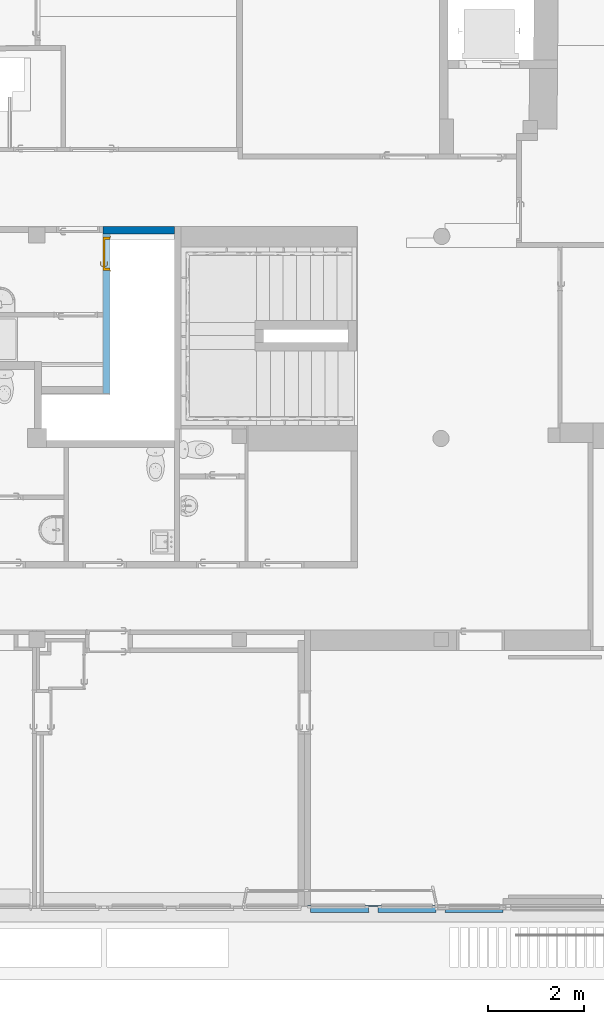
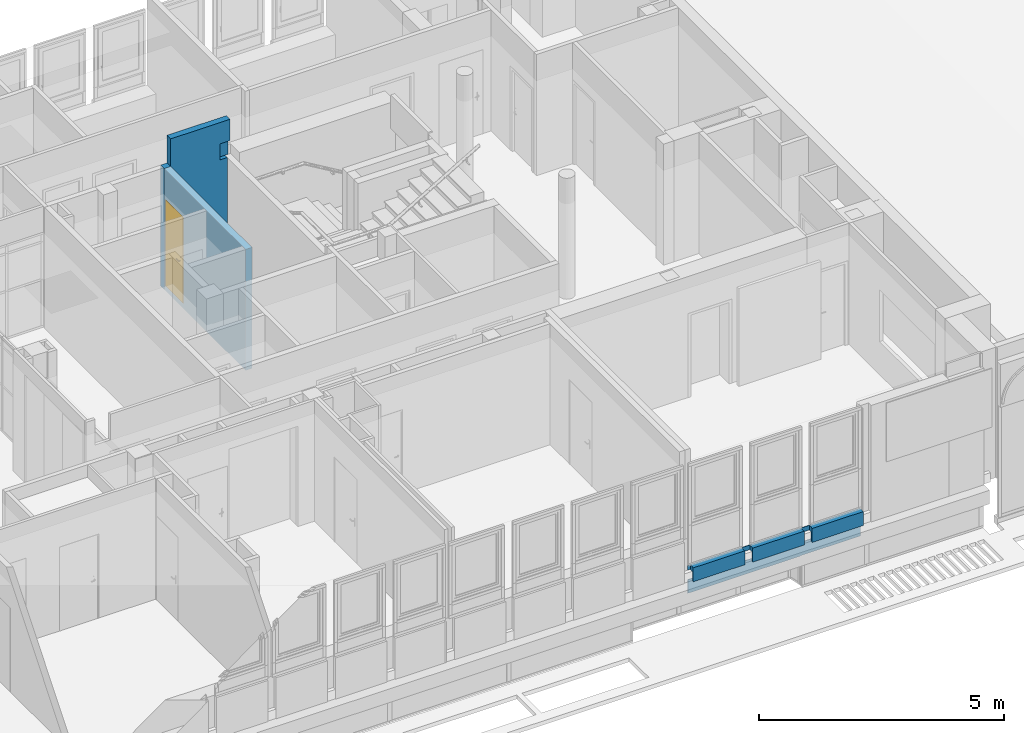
# One storey, part 76 of 97: 2 walls, 1 door, 2 openings, plus 1 element that does not belong to this part.
"""IFC4 building model written with IfcOpenShell, lengths in metres."""

from ifc_helpers import new_model, entity, si_unit, converted_unit, derived_unit, direction, frame, origin, place, context, subcontext, project, spatial, indexed_curve, outline, extrude, polygons, source, transform, mapped, material, material_list, layer, layer_set, constituent, constituent_set, type_object, type_shapes, element, fill, save


model = new_model("IFC4")

# Units and contexts
model_context = context("Model", 3, precision=1e-05, world=origin(), true_north=direction((6.12303176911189e-17, 1.0)))
body_context = subcontext(model_context, "Body", "Model", "MODEL_VIEW")
ifc_project = project(units=[si_unit("LENGTHUNIT", "METRE"), si_unit("AREAUNIT", "SQUARE_METRE"), si_unit("VOLUMEUNIT", "CUBIC_METRE"), converted_unit("PLANEANGLEUNIT", "DEGREE", entity("IfcRatioMeasure", 0.0174532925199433), si_unit("PLANEANGLEUNIT", "RADIAN"), dimensions=[0, 0, 0, 0, 0, 0, 0]), si_unit("MASSUNIT", "GRAM", prefix="KILO"), derived_unit("MASSDENSITYUNIT", [(si_unit("MASSUNIT", "GRAM", prefix="KILO"), 1), (si_unit("LENGTHUNIT", "METRE"), -3)]), derived_unit("MOMENTOFINERTIAUNIT", [(si_unit("LENGTHUNIT", "METRE"), 4)]), si_unit("TIMEUNIT", "SECOND"), si_unit("FREQUENCYUNIT", "HERTZ"), si_unit("THERMODYNAMICTEMPERATUREUNIT", "DEGREE_CELSIUS"), derived_unit("THERMALTRANSMITTANCEUNIT", [(si_unit("MASSUNIT", "GRAM", prefix="KILO"), 1), (si_unit("THERMODYNAMICTEMPERATUREUNIT", "KELVIN"), -1), (si_unit("TIMEUNIT", "SECOND"), -3)]), derived_unit("VOLUMETRICFLOWRATEUNIT", [(si_unit("LENGTHUNIT", "METRE"), 3), (si_unit("TIMEUNIT", "SECOND"), -1)]), si_unit("ELECTRICCURRENTUNIT", "AMPERE"), si_unit("ELECTRICVOLTAGEUNIT", "VOLT"), si_unit("POWERUNIT", "WATT"), si_unit("FORCEUNIT", "NEWTON", prefix="KILO"), si_unit("ILLUMINANCEUNIT", "LUX"), si_unit("LUMINOUSFLUXUNIT", "LUMEN"), si_unit("LUMINOUSINTENSITYUNIT", "CANDELA"), derived_unit("USERDEFINED", [(si_unit("MASSUNIT", "GRAM", prefix="KILO"), -1), (si_unit("LENGTHUNIT", "METRE"), -2), (si_unit("TIMEUNIT", "SECOND"), 3), (si_unit("LUMINOUSFLUXUNIT", "LUMEN"), 1)]), derived_unit("LINEARVELOCITYUNIT", [(si_unit("LENGTHUNIT", "METRE"), 1), (si_unit("TIMEUNIT", "SECOND"), -1)]), si_unit("PRESSUREUNIT", "PASCAL"), derived_unit("USERDEFINED", [(si_unit("LENGTHUNIT", "METRE"), -2), (si_unit("MASSUNIT", "GRAM", prefix="KILO"), 1), (si_unit("TIMEUNIT", "SECOND"), -2)]), derived_unit("LINEARFORCEUNIT", [(si_unit("MASSUNIT", "GRAM", prefix="KILO"), 1), (si_unit("LENGTHUNIT", "METRE"), 1), (si_unit("TIMEUNIT", "SECOND"), -2), (si_unit("LENGTHUNIT", "METRE"), -1)]), derived_unit("PLANARFORCEUNIT", [(si_unit("MASSUNIT", "GRAM", prefix="KILO"), 1), (si_unit("LENGTHUNIT", "METRE"), 1), (si_unit("TIMEUNIT", "SECOND"), -2), (si_unit("LENGTHUNIT", "METRE"), -2)])], contexts=[model_context])

# Site, building, storey
site_placement = place(None, origin())
site = spatial("IfcSite", under=ifc_project, at=site_placement, Name="Default", CompositionType="ELEMENT")
building_placement = place(site_placement, origin())
building = spatial("IfcBuilding", under=site, at=building_placement, Name="HOTEL CONSULAIRE BOULOGNE SUR MER", CompositionType="ELEMENT")
storey_placement = place(building_placement, frame((0.0, 0.0, 3.62152697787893)))
storey = spatial("IfcBuildingStorey", under=building, at=storey_placement, Name="Niveau 1", CompositionType="ELEMENT", Elevation=3.62152697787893)

# Wall, opening
ifc_material_1 = material(Name="Mur par défaut", Category="Divers")
ifc_layer_1 = layer(ifc_material_1, 0.15, Name="Mur par défaut", Category="Divers")
ifc_layer_set_1 = layer_set([ifc_layer_1], Name="Mur de base:Générique - Int. 150 mm")
wall_type_1 = type_object("IfcWallType", Name="Mur de base:Générique - Int. 150 mm", PredefinedType="NOTDEFINED", material=ifc_layer_set_1)
wall_1_placement = place(storey_placement, frame((1.69247131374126, -15.5102420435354, 0.0), z_axis=(0.0, 0.0, 1.0), x_axis=(-1.0, 0.0, 0.0)))
wall_1 = element("IfcWall", 1, at=wall_1_placement, inside=storey, type_object=wall_type_1, material=ifc_layer_set_1, Name="Mur de base:Générique - Int. 150 mm", ObjectType="Mur de base:Générique - Int. 150 mm", PredefinedType="NOTDEFINED", context=body_context, shape_type="Tessellation", body=[
    polygons([(0.0650000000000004, -0.0750000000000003, -5.41433564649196e-16), (1.55083625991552, -0.0750000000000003, -5.41433564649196e-16), (1.55083625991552, -0.0750000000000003, 3.01021454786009), (1.40083625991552, -0.0750000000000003, 3.01021454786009), (1.40083625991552, -0.0750000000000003, 3.69821454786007), (6.24087040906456e-17, -0.0750000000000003, 3.69821454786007), (6.24087040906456e-17, -0.0750000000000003, 3.01021454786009), (6.24087040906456e-17, -0.0750000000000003, 2.76821454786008), (0.0650000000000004, -0.0750000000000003, 2.76821454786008), (1.55083625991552, 0.0750000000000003, -5.41433564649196e-16), (1.40083625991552, 0.0750000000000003, -5.41433564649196e-16), (0.065, 0.0750000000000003, -5.41433564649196e-16), (0.065, 0.0750000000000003, 2.76821454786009), (0.235, 0.0750000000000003, 2.76821454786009), (0.235, 0.0750000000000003, 3.16821454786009), (1.49314948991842e-16, 0.0750000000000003, 3.16821454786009), (1.49314948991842e-16, 0.0750000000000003, 3.69821454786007), (1.40083625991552, 0.0750000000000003, 3.69821454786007), (1.40083625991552, 0.0750000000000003, 3.01021454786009), (1.55083625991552, 0.0750000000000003, 3.01021454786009), (1.55083625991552, 0.0449999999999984, -5.41433564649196e-16), (1.55083625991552, 0.0449999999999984, 3.01021454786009), (0.235, -0.017363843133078, 3.16821454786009), (0.235, -0.017363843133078, 2.76821454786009), (0.0650000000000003, -0.017363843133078, 2.76821454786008), (1.58477433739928e-16, -0.017363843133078, 2.76821454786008), (1.58477433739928e-16, -0.017363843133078, 3.01021454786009), (1.58477433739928e-16, -0.017363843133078, 3.16821454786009)], [[[7, 8, 9, 1, 2, 3, 4, 5, 6]], [[10, 11, 12, 13, 14, 15, 16, 17, 18, 19, 20]], [[27, 28, 23, 24, 25, 26]], [[6, 5, 18, 17]], [[13, 25, 24, 14]], [[22, 20, 19, 4, 3]], [[3, 2, 21, 10, 20, 22]], [[5, 4, 19, 18]], [[1, 12, 11, 10, 21, 2]], [[26, 25, 9, 8]], [[15, 23, 28, 16]], [[14, 24, 23, 15]], [[26, 8, 7, 6, 17, 16, 28, 27]], [[25, 13, 12, 1, 9]]], closed=True),
])
opening_1_placement = place(storey_placement, frame((1.69247131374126, -15.5102420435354, 0.0), z_axis=(0.0, 0.0, 1.0), x_axis=(-1.0, 0.0, 0.0)))
element("IfcOpeningElement", 2, at=opening_1_placement, cuts=wall_1, Name="Mur de base:Générique - Int. 150 mm:1", ObjectType="Opening", PredefinedType="OPENING", context=body_context, shape_type="SweptSolid", body=[
    extrude(outline(indexed_curve([(-0.0461819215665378, -0.085), (0.0461819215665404, -0.085), (0.04618192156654, 0.085), (-0.0461819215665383, 0.0849999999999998), (-0.0461819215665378, -0.085)], self_intersect=False)), frame((0.15, 0.0288180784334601, 2.76821454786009), z_axis=(0.0, 0.0, 1.0), x_axis=(0.0, 1.0, 0.0)), (0.0, 0.0, 1.0), 0.4),
])

# Wall, opening, door
wall_2_placement = place(storey_placement, frame((0.216635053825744, -18.9046212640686, 0.0), z_axis=(0.0, 0.0, 1.0), x_axis=(0.0, 1.0, 0.0)))
wall_2 = element("IfcWall", 3, at=wall_2_placement, inside=storey, type_object=wall_type_1, material=ifc_layer_set_1, Name="Mur de base:Générique - Int. 150 mm", ObjectType="Mur de base:Générique - Int. 150 mm", PredefinedType="NOTDEFINED", context=body_context, shape_type="Tessellation", body=[
    polygons([(3.31937922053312, -0.075, 3.01021454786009), (0.0, -0.075, 3.01021454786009), (0.0, -0.075, 0.0), (3.2043792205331, -0.075, 0.0), (3.31937922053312, -0.075, 0.0), (3.2533792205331, -0.075, 2.26500000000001), (3.2533792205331, -0.075, 0.13), (2.5533792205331, -0.075, 0.13), (2.5533792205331, -0.075, 2.26500000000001), (0.0, 0.075, 3.01021454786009), (0.150000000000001, 0.075, 3.01021454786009), (1.58683564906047, 0.075, 3.01021454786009), (1.68683564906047, 0.075, 3.01021454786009), (3.31937922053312, 0.075, 3.01021454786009), (3.31937922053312, 0.075, 0.0), (1.68683564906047, 0.075, 0.0), (1.58683564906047, 0.075, 0.0), (0.150000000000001, 0.075, 0.0), (0.0, 0.075, 0.0), (3.2533792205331, 0.075, 0.13), (3.2533792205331, 0.075, 2.26500000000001), (2.5533792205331, 0.075, 2.26500000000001), (2.5533792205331, 0.075, 0.13)], [[[3, 4, 5, 1, 2], [9, 6, 7, 8]], [[15, 16, 17, 18, 19, 10, 11, 12, 13, 14], [20, 21, 22, 23]], [[2, 1, 14, 13, 12, 11, 10]], [[20, 23, 8, 7]], [[10, 19, 3, 2]], [[21, 20, 7, 6]], [[22, 21, 6, 9]], [[18, 17, 16, 15, 5, 4, 3, 19]], [[23, 22, 9, 8]], [[5, 15, 14, 1]]], closed=True),
])
opening_2_placement = place(wall_2_placement, frame((2.5533792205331, -0.0749999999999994, 0.130000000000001)))
opening_2 = element("IfcOpeningElement", 4, at=opening_2_placement, cuts=wall_2, Name="Int. Simple:PP (0.63m x 2.10m):1", ObjectType="Opening", PredefinedType="OPENING", context=body_context, shape_type="SweptSolid", body=[
    extrude(outline(indexed_curve([(0.0, 0.699999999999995), (0.0, 0.0), (2.13500000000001, 0.0), (2.13500000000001, 0.699999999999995), (0.0, 0.699999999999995)], self_intersect=False)), frame((0.0, 0.0, 0.0), z_axis=(0.0, 1.0, 0.0), x_axis=(0.0, 0.0, 1.0)), (0.0, 0.0, 1.0), 0.15),
])
ifc_material_2 = material(Name="Finition Peinture - Blanc satiné", Category="Peinture")
ifc_constituent_1 = constituent(ifc_material_2, Name="Finition Peinture - Blanc satiné", Category="Matériaux")
ifc_material_3 = material(Name="Bois - Panneau de porte", Category="Bois")
ifc_constituent_2 = constituent(ifc_material_3, Name="Bois - Panneau de porte", Category="Matériaux")
ifc_material_4 = material(Name="Bois - Cadre de porte", Category="Bois")
ifc_constituent_3 = constituent(ifc_material_4, Name="Bois - Cadre de porte", Category="Matériaux")
ifc_constituent_set = constituent_set(constituents=[ifc_constituent_1, ifc_constituent_2, ifc_constituent_3], Name="MaterialConstituentSet")
ifc_material_list = material_list([ifc_material_3, ifc_material_2, ifc_material_4, ifc_material_4])
door_type = type_object("IfcDoorType", Name="Int. Simple:PP (0.63m x 2.10m)", OperationType="NOTDEFINED", PredefinedType="DOOR", material=ifc_material_list)
shared_shape = source(origin(), body_context, "Body", "Tessellation", [
    polygons([(0.695000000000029, -0.00500000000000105, 0.870000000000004), (0.695000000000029, -0.00500000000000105, 1.08), (0.68535276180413, -0.00500000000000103, 1.08399601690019), (0.675000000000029, -0.00500000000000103, 1.08535898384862), (0.664647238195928, -0.00500000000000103, 1.08399601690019), (0.65500000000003, -0.00500000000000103, 1.08), (0.655000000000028, -0.00500000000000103, 0.870000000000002), (0.664647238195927, -0.00500000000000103, 0.866003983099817), (0.675000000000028, -0.00500000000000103, 0.86464101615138), (0.685352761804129, -0.00500000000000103, 0.866003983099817), (0.695000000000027, -1.04902753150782e-15, 0.870000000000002), (0.685352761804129, -1.04902753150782e-15, 0.866003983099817), (0.675000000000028, -1.04056763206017e-15, 0.86464101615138), (0.664647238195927, -1.04056763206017e-15, 0.866003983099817), (0.655000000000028, -1.03210773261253e-15, 0.870000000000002), (0.655000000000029, -1.03210773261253e-15, 1.08), (0.664647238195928, -1.04056763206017e-15, 1.08399601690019), (0.675000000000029, -1.04056763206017e-15, 1.08535898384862), (0.68535276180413, -1.04902753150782e-15, 1.08399601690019), (0.695000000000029, -1.04902753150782e-15, 1.08)], [[[1, 2, 3, 4, 5, 6, 7, 8, 9, 10]], [[20, 11, 12, 13, 14, 15, 16, 17, 18, 19]], [[10, 12, 11, 1]], [[9, 13, 12, 10]], [[8, 14, 13, 9]], [[8, 7, 15, 14]], [[15, 7, 6, 16]], [[5, 17, 16, 6]], [[4, 18, 17, 5]], [[3, 19, 18, 4]], [[3, 2, 20, 19]], [[11, 20, 2, 1]]], closed=True),
    polygons([(0.65500000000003, 0.0399999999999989, 1.08), (0.655000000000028, 0.0399999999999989, 0.870000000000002), (0.664647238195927, 0.0399999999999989, 0.866003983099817), (0.675000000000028, 0.0399999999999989, 0.86464101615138), (0.685352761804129, 0.0399999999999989, 0.866003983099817), (0.695000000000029, 0.0399999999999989, 0.870000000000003), (0.695000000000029, 0.0399999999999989, 1.08), (0.68535276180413, 0.0399999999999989, 1.08399601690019), (0.675000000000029, 0.0399999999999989, 1.08535898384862), (0.664647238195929, 0.0399999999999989, 1.08399601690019), (0.65500000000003, 0.044999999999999, 1.08), (0.664647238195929, 0.0449999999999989, 1.08399601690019), (0.675000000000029, 0.0449999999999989, 1.08535898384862), (0.68535276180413, 0.0449999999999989, 1.08399601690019), (0.695000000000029, 0.0449999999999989, 1.08), (0.695000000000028, 0.0449999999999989, 0.870000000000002), (0.685352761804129, 0.0449999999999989, 0.866003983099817), (0.675000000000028, 0.0449999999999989, 0.86464101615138), (0.664647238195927, 0.0449999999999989, 0.866003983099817), (0.655000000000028, 0.044999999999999, 0.870000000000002)], [[[6, 7, 8, 9, 10, 1, 2, 3, 4, 5]], [[13, 14, 15, 16, 17, 18, 19, 20, 11, 12]], [[10, 12, 11, 1]], [[9, 13, 12, 10]], [[8, 14, 13, 9]], [[8, 7, 15, 14]], [[16, 15, 7, 6]], [[5, 17, 16, 6]], [[4, 18, 17, 5]], [[3, 19, 18, 4]], [[3, 2, 20, 19]], [[20, 2, 1, 11]]], closed=True),
    polygons([(0.681000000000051, -0.00500000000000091, 1.00699999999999), (0.68100000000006, -0.00500000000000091, 0.992999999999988), (0.677025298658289, -0.00500000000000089, 0.99221955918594), (0.67297470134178, -0.00500000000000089, 0.992219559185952), (0.669000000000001, -0.00500000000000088, 0.993000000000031), (0.669000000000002, -0.00500000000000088, 1.007), (0.672974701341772, -0.00500000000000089, 1.00778044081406), (0.677025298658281, -0.00500000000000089, 1.00778044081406), (0.669000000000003, -0.0276803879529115, 1.007), (0.672974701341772, -0.0293267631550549, 1.00778044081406), (0.677025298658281, -0.0310045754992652, 1.00778044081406), (0.681000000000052, -0.0326509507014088, 1.007), (0.669000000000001, -0.0276803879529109, 0.993000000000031), (0.68100000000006, -0.0326509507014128, 0.992999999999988), (0.677025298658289, -0.0310045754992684, 0.99221955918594), (0.67297470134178, -0.0293267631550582, 0.992219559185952), (0.657652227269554, -0.0390281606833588, 1.007), (0.659298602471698, -0.0430028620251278, 1.00778044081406), (0.660976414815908, -0.0470534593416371, 1.00778044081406), (0.662622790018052, -0.051028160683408, 1.007), (0.657652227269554, -0.0390281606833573, 0.993000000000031), (0.662622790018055, -0.0510281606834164, 0.992999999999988), (0.660976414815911, -0.0470534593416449, 0.99221955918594), (0.659298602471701, -0.0430028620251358, 0.992219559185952), (0.574981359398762, -0.0510281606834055, 1.007), (0.574981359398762, -0.0470534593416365, 1.00778044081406), (0.574981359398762, -0.0430028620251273, 1.00778044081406), (0.574981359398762, -0.0390281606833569, 1.00699999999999), (0.574981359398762, -0.0390281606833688, 0.993000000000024), (0.574981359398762, -0.0430028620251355, 0.992219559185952), (0.574981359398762, -0.0470534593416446, 0.99221955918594), (0.574981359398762, -0.0510281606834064, 0.992999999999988), (0.622692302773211, -0.051028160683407, 1.007), (0.617139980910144, -0.045028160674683, 1.0078786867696), (0.616316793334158, -0.0390281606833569, 1.007), (0.622692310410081, -0.0510281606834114, 0.992999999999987), (0.617139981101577, -0.0450281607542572, 0.992121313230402), (0.61631679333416, -0.0390281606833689, 0.993000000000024)], [[[7, 8, 1, 2, 3, 4, 5, 6]], [[17, 21, 38, 29, 28, 35]], [[1, 8, 11, 12]], [[8, 7, 10, 18, 19, 11]], [[7, 6, 9, 10]], [[13, 9, 6, 5]], [[25, 26, 27, 28, 29, 30, 31, 32]], [[4, 16, 13, 5]], [[4, 3, 15, 23, 24, 16]], [[2, 14, 15, 3]], [[12, 14, 2, 1]], [[12, 11, 19, 20]], [[10, 9, 17, 18]], [[21, 17, 9, 13]], [[13, 16, 24, 21]], [[15, 14, 22, 23]], [[20, 22, 14, 12]], [[34, 26, 33]], [[33, 26, 25]], [[33, 20, 19]], [[18, 35, 34]], [[35, 18, 17]], [[28, 27, 35]], [[34, 27, 26]], [[34, 35, 27]], [[34, 33, 19]], [[18, 34, 19]], [[37, 30, 38]], [[31, 37, 36]], [[24, 38, 21]], [[30, 29, 38]], [[31, 36, 32]], [[36, 23, 22]], [[37, 23, 36]], [[37, 24, 23]], [[37, 38, 24]], [[30, 37, 31]], [[22, 20, 33, 25, 32, 36]]], closed=True),
    polygons([(0.66900000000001, 0.0449999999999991, 0.993000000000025), (0.672974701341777, 0.0449999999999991, 0.992219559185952), (0.677025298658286, 0.0449999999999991, 0.99221955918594), (0.681000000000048, 0.0449999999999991, 0.992999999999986), (0.681000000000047, 0.0449999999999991, 1.007), (0.677025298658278, 0.0449999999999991, 1.00778044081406), (0.672974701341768, 0.0449999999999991, 1.00778044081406), (0.668999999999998, 0.0449999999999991, 1.007), (0.668999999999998, 0.067485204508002, 1.007), (0.668999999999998, 0.0674852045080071, 0.993000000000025), (0.681000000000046, 0.0724557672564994, 1.007), (0.677025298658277, 0.070809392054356, 1.00778044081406), (0.672974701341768, 0.0691315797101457, 1.00778044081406), (0.681000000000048, 0.0724557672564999, 0.992999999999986), (0.672974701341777, 0.0691315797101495, 0.992219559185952), (0.677025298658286, 0.0708093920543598, 0.99221955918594), (0.65751471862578, 0.0789704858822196, 1.007), (0.657514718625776, 0.0789704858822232, 0.993000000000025), (0.662485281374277, 0.0909704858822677, 1.007), (0.660838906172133, 0.0869957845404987, 1.00778044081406), (0.659161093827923, 0.0829451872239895, 1.00778044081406), (0.662485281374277, 0.0909704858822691, 0.992999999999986), (0.659161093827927, 0.0829451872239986, 0.992219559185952), (0.660838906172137, 0.0869957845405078, 0.99221955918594), (0.574954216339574, 0.0789704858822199, 0.993000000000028), (0.574954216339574, 0.0789704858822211, 1.007), (0.574954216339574, 0.0829451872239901, 1.00778044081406), (0.574954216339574, 0.0869957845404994, 1.00778044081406), (0.574954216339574, 0.0909704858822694, 1.007), (0.574954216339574, 0.0909704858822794, 0.992999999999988), (0.574954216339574, 0.086995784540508, 0.99221955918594), (0.574954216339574, 0.0829451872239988, 0.992219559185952), (0.62255479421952, 0.0909704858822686, 1.007), (0.617057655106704, 0.0849704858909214, 1.0078786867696), (0.616234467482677, 0.0789704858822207, 1.007), (0.622554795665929, 0.0909704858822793, 0.992999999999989), (0.617057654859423, 0.0849704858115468, 0.992121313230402), (0.616234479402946, 0.0789704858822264, 0.993000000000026)], [[[2, 3, 4, 5, 6, 7, 8, 1]], [[18, 17, 35, 26, 25, 38]], [[9, 10, 1, 8]], [[27, 28, 29, 30, 31, 32, 25, 26]], [[7, 13, 9, 8]], [[7, 6, 12, 20, 21, 13]], [[5, 11, 12, 6]], [[11, 5, 4, 14]], [[4, 3, 16, 14]], [[3, 2, 15, 23, 24, 16]], [[2, 1, 10, 15]], [[17, 18, 10, 9]], [[9, 13, 21, 17]], [[11, 19, 20, 12]], [[22, 19, 11, 14]], [[14, 16, 24, 22]], [[15, 10, 18, 23]], [[34, 27, 35]], [[28, 34, 33]], [[21, 35, 17]], [[27, 26, 35]], [[28, 33, 29]], [[33, 20, 19]], [[34, 20, 33]], [[34, 21, 20]], [[34, 35, 21]], [[27, 34, 28]], [[19, 22, 36, 30, 29, 33]], [[37, 31, 36]], [[36, 31, 30]], [[36, 22, 24]], [[23, 38, 37]], [[38, 23, 18]], [[25, 32, 38]], [[37, 32, 31]], [[37, 38, 32]], [[37, 36, 24]], [[23, 37, 24]]], closed=True),
    polygons([(0.735000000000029, 0.0400000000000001, 2.1), (0.735000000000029, 0.0400000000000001, 0.0), (0.105000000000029, 0.0400000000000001, 0.0), (0.105000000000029, 0.0400000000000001, 2.1), (0.735000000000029, 8.45989944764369e-17, 2.1), (0.105000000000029, 8.45989944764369e-17, 2.1), (0.105000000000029, 8.45989944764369e-17, 0.0), (0.735000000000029, 8.45989944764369e-17, 0.0)], [[[4, 1, 2, 3]], [[5, 6, 7, 8]], [[5, 1, 4, 6]], [[6, 4, 3, 7]], [[7, 3, 2, 8]], [[8, 2, 1, 5]]], closed=True),
    polygons([(0.770000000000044, 1.69197988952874e-17, 0.0), (0.735000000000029, 1.69197988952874e-17, 0.0), (0.735000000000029, 0.0400000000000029, 0.0), (0.720000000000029, 0.0400000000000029, 0.0), (0.720000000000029, 0.150000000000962, 0.0), (0.770000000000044, 0.150000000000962, 0.0), (0.770000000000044, 0.150000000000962, 2.13500000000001), (0.770000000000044, 1.69197988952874e-17, 2.13500000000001), (0.720000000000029, 0.150000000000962, 2.085), (0.120000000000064, 0.150000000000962, 2.085), (0.120000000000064, 0.150000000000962, 4.03399441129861e-24), (0.0700000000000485, 0.150000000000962, 4.03399441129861e-24), (0.0700000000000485, 0.150000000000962, 2.13500000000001), (0.720000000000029, 0.0400000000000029, 2.085), (0.735000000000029, 0.0400000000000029, 2.1), (0.105000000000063, 0.0400000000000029, 2.1), (0.105000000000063, 0.0400000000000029, -4.03399441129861e-24), (0.120000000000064, 0.0400000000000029, 8.06798882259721e-24), (0.120000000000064, 0.0400000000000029, 2.085), (0.735000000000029, 1.69197988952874e-17, 2.1), (0.0700000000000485, 1.69197988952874e-17, 2.13500000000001), (0.0700000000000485, 1.69197988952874e-17, -3.76506206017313e-24), (0.105000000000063, 1.69197988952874e-17, -8.06799968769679e-25), (0.105000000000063, 1.69197988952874e-17, 2.1)], [[[5, 6, 1, 2, 3, 4]], [[17, 23, 22, 12, 11, 18]], [[19, 10, 9, 14]], [[16, 15, 20, 24]], [[7, 8, 1, 6]], [[18, 11, 10, 19]], [[17, 16, 24, 23]], [[9, 10, 11, 12, 13, 7, 6, 5]], [[14, 9, 5, 4]], [[15, 3, 2, 20]], [[12, 22, 21, 13]], [[19, 14, 4, 3, 15, 16, 17, 18]], [[24, 20, 2, 1, 8, 21, 22, 23]], [[13, 21, 8, 7]]], closed=True),
    polygons([(0.755000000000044, 0.150000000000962, 0.0), (0.755000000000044, 0.155000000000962, 0.0), (0.785000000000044, 0.155000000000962, 0.0), (0.785000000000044, 0.150000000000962, 0.0), (0.785000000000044, 0.150000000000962, 2.15000000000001), (0.0550000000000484, 0.150000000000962, 2.15000000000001), (0.0550000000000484, 0.150000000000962, -4.87123881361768e-24), (0.0850000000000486, 0.150000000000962, 5.4801430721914e-24), (0.0850000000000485, 0.150000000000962, 2.12000000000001), (0.755000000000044, 0.150000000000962, 2.12000000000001), (0.785000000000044, 0.155000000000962, 2.15000000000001), (0.755000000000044, 0.155000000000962, 2.12000000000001), (0.0850000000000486, 0.155000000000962, 2.12000000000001), (0.0850000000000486, 0.155000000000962, -1.59483471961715e-24), (0.0550000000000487, 0.155000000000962, -4.37172388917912e-24), (0.0550000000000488, 0.155000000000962, 2.15000000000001)], [[[2, 3, 4, 1]], [[8, 7, 15, 14]], [[9, 13, 12, 10]], [[9, 10, 1, 4, 5, 6, 7, 8]], [[5, 4, 3, 11]], [[14, 13, 9, 8]], [[12, 13, 14, 15, 16, 11, 3, 2]], [[10, 12, 2, 1]], [[7, 6, 16, 15]], [[6, 5, 11, 16]]], closed=True),
    polygons([(0.0850000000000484, -0.00499999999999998, 6.76791955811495e-16), (0.0550000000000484, -0.00499999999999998, 6.76791955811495e-16), (0.0550000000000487, 1.69197988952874e-17, 6.76791955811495e-16), (0.0850000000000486, 1.69197988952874e-17, 6.76791955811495e-16), (0.755000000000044, -0.00499999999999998, 0.0), (0.755000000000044, 1.69197988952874e-17, 0.0), (0.785000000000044, 1.69197988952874e-17, 0.0), (0.785000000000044, -0.00499999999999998, 0.0), (0.785000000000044, -0.00499999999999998, 2.15000000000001), (0.0550000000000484, -0.00499999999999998, 2.15000000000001), (0.0850000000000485, -0.00499999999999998, 2.12000000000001), (0.755000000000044, -0.00499999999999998, 2.12000000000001), (0.785000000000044, 1.69197988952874e-17, 2.15000000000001), (0.755000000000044, 1.69197988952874e-17, 2.12000000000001), (0.0850000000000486, 1.69197988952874e-17, 2.12000000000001), (0.0550000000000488, 1.69197988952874e-17, 2.15000000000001)], [[[1, 2, 3, 4]], [[6, 7, 8, 5]], [[15, 14, 12, 11]], [[11, 12, 5, 8, 9, 10, 2, 1]], [[9, 8, 7, 13]], [[4, 15, 11, 1]], [[14, 15, 4, 3, 16, 13, 7, 6]], [[14, 6, 5, 12]], [[2, 10, 16, 3]], [[10, 9, 13, 16]]], closed=True),
])
type_shapes(door_type, [shared_shape])
door_placement = place(opening_2_placement, frame((0.770000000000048, 0.149999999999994, 0.0), z_axis=(0.0, 0.0, 1.0), x_axis=(-1.0, 0.0, 0.0)))
door = element("IfcDoor", 5, at=door_placement, inside=storey, type_object=door_type, material=ifc_constituent_set, Name="Int. Simple:PP (0.63m x 2.10m)", ObjectType="Int. Simple:PP (0.63m x 2.10m)", OperationType="NOTDEFINED", OverallHeight=2.13500000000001, OverallWidth=0.699999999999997, PredefinedType="DOOR", context=body_context, shape_type="MappedRepresentation", body=[
    mapped(shared_shape, transform((0.0, 0.0, 0.0), scale=1.0)),
])
fill(opening_2, door)

# Wall
ifc_layer_2 = layer(ifc_material_1, 0.14, Name="Mur par défaut", Category="Divers")
ifc_layer_set_2 = layer_set([ifc_layer_2], Name="Mur de base:Générique - Ext.140")
wall_type_2 = type_object("IfcWallType", Name="Mur de base:Générique - Ext.140", PredefinedType="NOTDEFINED", material=ifc_layer_set_2)
wall_3_placement = place(storey_placement, frame((8.45858002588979, -29.6141047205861, -0.570400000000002), z_axis=(0.0, 0.0, 1.0), x_axis=(-1.0, 0.0, 0.0)))
element("IfcWall", 6, at=wall_3_placement, inside=storey, type_object=wall_type_2, material=ifc_layer_set_2, Name="Mur de base:Générique - Ext.140", ObjectType="Mur de base:Générique - Ext.140", PredefinedType="NOTDEFINED", context=body_context, shape_type="Tessellation", body=[
    polygons([(4.065, -0.0700000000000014, 0.0), (4.065, -0.0500376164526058, 0.0), (4.065, -0.0500376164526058, 0.335400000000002), (4.065, -0.0700000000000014, 0.335400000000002), (1.41340325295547, -0.0700000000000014, 0.0), (2.75980756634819e-15, -0.0699999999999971, 0.335400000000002), (2.75980756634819e-15, -0.0699999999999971, 0.00739999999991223), (1.41340325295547, -0.0700000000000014, 0.00739999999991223), (1.41340325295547, -0.0500376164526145, 0.0), (2.69435844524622e-15, -0.0500376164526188, 0.00739999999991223), (2.69435844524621e-15, -0.0500376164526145, 0.335400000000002), (1.41340325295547, -0.0500376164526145, 0.00739999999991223)], [[[4, 1, 2, 3]], [[8, 5, 1, 4, 6, 7]], [[1, 5, 9, 2]], [[12, 8, 7, 10]], [[7, 6, 11, 10]], [[9, 5, 8, 12]], [[12, 10, 11, 3, 2, 9]], [[11, 6, 4, 3]]], closed=True),
    polygons([(4.065, -0.0700000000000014, 0.686502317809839), (2.75980756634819e-15, -0.0699999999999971, 0.686502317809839), (2.75980756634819e-15, -0.0699999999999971, 0.570400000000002), (4.065, -0.0700000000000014, 0.570400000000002), (1.35066148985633e-16, 0.0700000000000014, 0.34), (2.30080040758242e-15, 0.0700000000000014, 0.686502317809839), (1.2073556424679, 0.0700000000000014, 0.686502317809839), (1.2073556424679, 0.0700000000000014, 0.34), (1.3926443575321, 0.0700000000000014, 0.34), (1.3926443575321, 0.0700000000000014, 0.686502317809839), (2.6073556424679, 0.0700000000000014, 0.686502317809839), (2.6073556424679, 0.0700000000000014, 0.34), (2.38523559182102e-15, 0.0442467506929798, 0.34), (2.46145291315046e-15, 0.0209999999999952, 0.34), (2.46145291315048e-15, 0.0209999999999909, 0.570400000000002), (2.72714467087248e-15, -0.0600376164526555, 0.570400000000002), (1.2000056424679, 0.0209999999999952, 0.34), (2.8, 0.020962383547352, 0.34), (2.7926443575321, 0.0699999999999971, 0.34), (4.0073556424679, 0.0700000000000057, 0.34), (4.0000056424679, 0.0209999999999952, 0.34), (2.6, 0.0209999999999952, 0.570400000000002), (1.3999943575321, 0.0209999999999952, 0.570400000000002), (1.4, 0.0209999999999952, 0.34), (2.6000056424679, 0.0209999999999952, 0.34), (1.2, 0.0209999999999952, 0.570400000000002), (2.7926443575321, 0.0699999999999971, 0.686502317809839), (4.0073556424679, 0.0700000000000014, 0.686502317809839), (4.065, -0.0600376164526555, 0.570400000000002), (4.065, -0.0600376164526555, 0.686502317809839), (4.0, -0.0600376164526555, 0.686502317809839), (4.0, 0.0209623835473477, 0.686502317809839), (2.8, 0.0209623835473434, 0.686502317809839), (2.8, -0.0600376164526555, 0.686502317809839), (2.6, -0.0600376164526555, 0.686502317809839), (2.6, 0.0209623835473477, 0.686502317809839), (1.4, 0.0209623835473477, 0.686502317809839), (1.4, -0.0600376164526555, 0.686502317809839), (1.2, -0.0600376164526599, 0.686502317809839), (1.2, 0.0209623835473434, 0.686502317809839), (1.2, -0.0600376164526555, 0.570400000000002), (1.4, -0.0600376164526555, 0.570400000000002), (2.6, -0.0600376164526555, 0.570400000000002), (2.8, -0.0600376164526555, 0.570400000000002), (2.8, 0.0209623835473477, 0.570400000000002), (4.0, 0.0209980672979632, 0.570400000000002), (4.0, -0.0600376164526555, 0.570400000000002)], [[[2, 3, 4, 1]], [[22, 23, 24, 25]], [[26, 15, 14, 17]], [[7, 8, 5, 6]], [[11, 12, 9, 10]], [[28, 20, 19, 27]], [[42, 41, 39, 38]], [[44, 43, 35, 34]], [[47, 31, 30, 29]], [[3, 2, 6, 5, 13, 14, 15, 16]], [[42, 38, 37]], [[44, 34, 33, 45]], [[17, 14, 13, 5, 8]], [[21, 18, 19, 20]], [[25, 24, 9, 12]], [[42, 23, 22, 43, 44, 45, 46, 47, 29, 4, 3, 16, 15, 26, 41]], [[1, 4, 29, 30]], [[41, 26, 40, 39]], [[22, 36, 35, 43]], [[47, 46, 32, 31]], [[1, 30, 31, 32, 28, 27, 33, 34, 35, 36, 11, 10, 37, 38, 39, 40, 7, 6, 2]], [[26, 7, 40]], [[22, 11, 36]], [[17, 8, 26]], [[25, 12, 22]], [[7, 26, 8]], [[11, 22, 12]], [[37, 23, 42]], [[23, 37, 10, 9]], [[45, 33, 27, 19, 18]], [[9, 24, 23]], [[46, 18, 21]], [[18, 46, 45]], [[46, 28, 32]], [[21, 20, 46]], [[28, 46, 20]]], closed=True),
])

save(model, "model.ifc")
